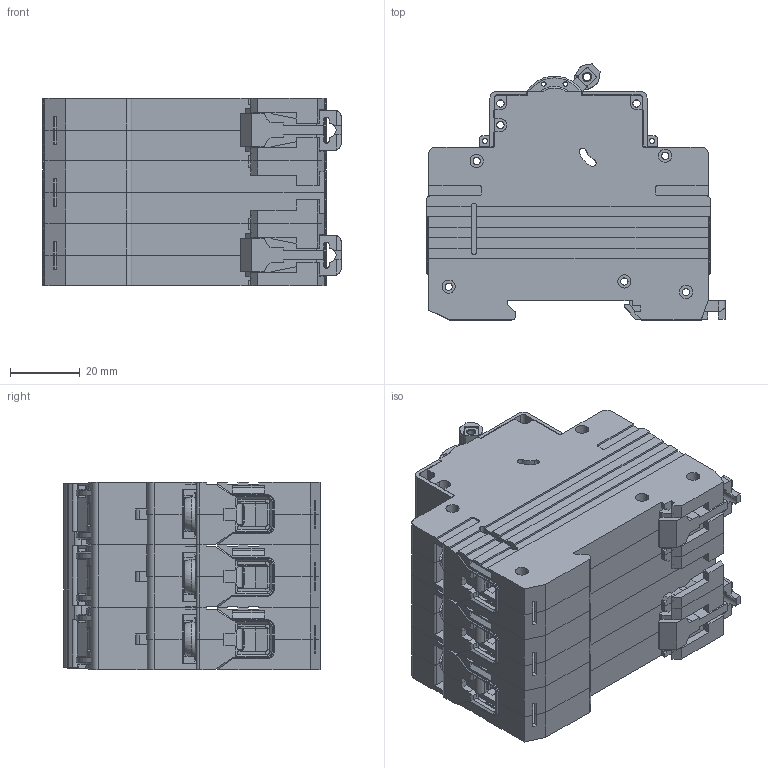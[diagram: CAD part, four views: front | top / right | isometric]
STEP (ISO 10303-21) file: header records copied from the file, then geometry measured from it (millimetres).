
FILE_DESCRIPTION (( 'STEP AP214' ), '1' );
FILE_NAME ('OptiDin 蟯63 - 3 瀁錌黟.STEP', '2022-11-15T06:07:21', ( '' ), ( '' ), 'SwSTEP 2.0', 'SolidWorks 2018', '' );
FILE_SCHEMA (( 'AUTOMOTIVE_DESIGN' ));
Length unit declared in the file: millimetre
Products named in the file (10): OptiDin 蟯63 - 3 瀁錌黟; Çàù¸ëêà ÃÆÈÊ.741358.031.step; Ñêîáà ÃÆÈÊ.746442.010.step; Áîêîâèíà ëåâàÿ ÃÆÈÊ.735224.139 (ïóñòàÿ).step; ﾂ鏆鮏 ﾃﾆﾈﾊ.745315.008.step; Êîëîäêà ÃÆÈÊ.745418.015.step; Áîêîâèíà ïðàâàÿ ÃÆÈÊ.735224.140 (ïóñòàÿ).step; OptiDin 蟯63 - 1 瀁錌鎕1; 妈眚 闷仁.758151.057.step; Ðó÷êà ÃÆÈÊ.753725.016
Assembly tree (15 placements, depth 3):
  OptiDin 蟯63 - 3 瀁錌黟
    OptiDin 蟯63 - 1 瀁錌鎕1  x3
      Áîêîâèíà ïðàâàÿ ÃÆÈÊ.735224.140 (ïóñòàÿ).step
      Áîêîâèíà ëåâàÿ ÃÆÈÊ.735224.139 (ïóñòàÿ).step
      Ðó÷êà ÃÆÈÊ.753725.016
      ﾂ鏆鮏 ﾃﾆﾈﾊ.745315.008.step
      Êîëîäêà ÃÆÈÊ.745418.015.step
      妈眚 闷仁.758151.057.step
    Ñêîáà ÃÆÈÊ.746442.010.step
    Çàù¸ëêà ÃÆÈÊ.741358.031.step  x2
Bounding box: 85.5 x 73.33 x 53.7 mm (x, y, z)
Volume: 91863.6 mm3; surface area: 123254.8 mm2
Topology: 30 solids, 72 shells, 5312 faces, 14453 edges, 9371 vertices
Faces by surface type: plane 3769, cylinder 1408, cone 87, torus 36, bspline 12
Entity records: 56959 total; most frequent: CARTESIAN_POINT 9095, ORIENTED_EDGE 8580, DIRECTION 8285, EDGE_CURVE 4290, VECTOR 3301, LINE 3301, VERTEX_POINT 2798, AXIS2_PLACEMENT_3D 2492
